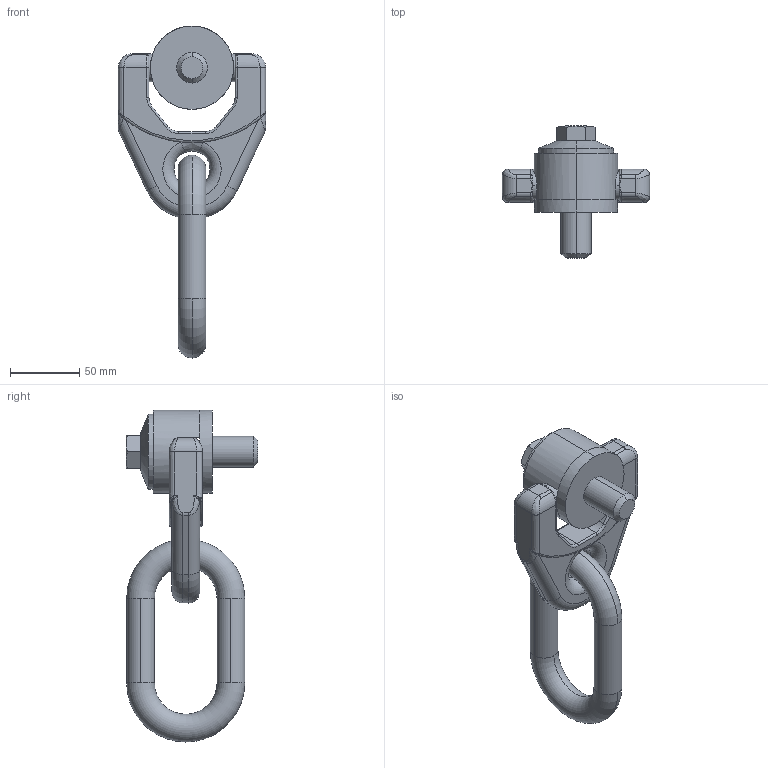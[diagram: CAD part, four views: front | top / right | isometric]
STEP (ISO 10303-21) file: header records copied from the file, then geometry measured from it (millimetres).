
FILE_DESCRIPTION (( 'STEP AP203' ), '1' );
FILE_NAME ('63150.W0288.step', '2013-12-13T11:55:36', ( 'User' ), ( '' ), 'SwSTEP 2.0', 'SolidWorks 2009', '' );
FILE_SCHEMA (( 'CONFIG_CONTROL_DESIGN' ));
Length unit declared in the file: millimetre
Products named in the file (4): Part1_63150.W0288; Part2C; Part3_63150.W0288; 63150.W0288
Assembly tree (3 placements, depth 2):
  63150.W0288
    Part2C
    Part1_63150.W0288
    Part3_63150.W0288
Bounding box: 106 x 95 x 239 mm (x, y, z)
Volume: 379913 mm3; surface area: 67023.5 mm2
Topology: 3 solids, 3 shells, 170 faces, 419 edges, 247 vertices
Faces by surface type: cylinder 54, bspline 46, plane 38, torus 22, cone 10
Entity records: 7536 total; most frequent: CARTESIAN_POINT 3436, ORIENTED_EDGE 826, DIRECTION 734, EDGE_CURVE 413, AXIS2_PLACEMENT_3D 305, VERTEX_POINT 247, CIRCLE 175, EDGE_LOOP 174
